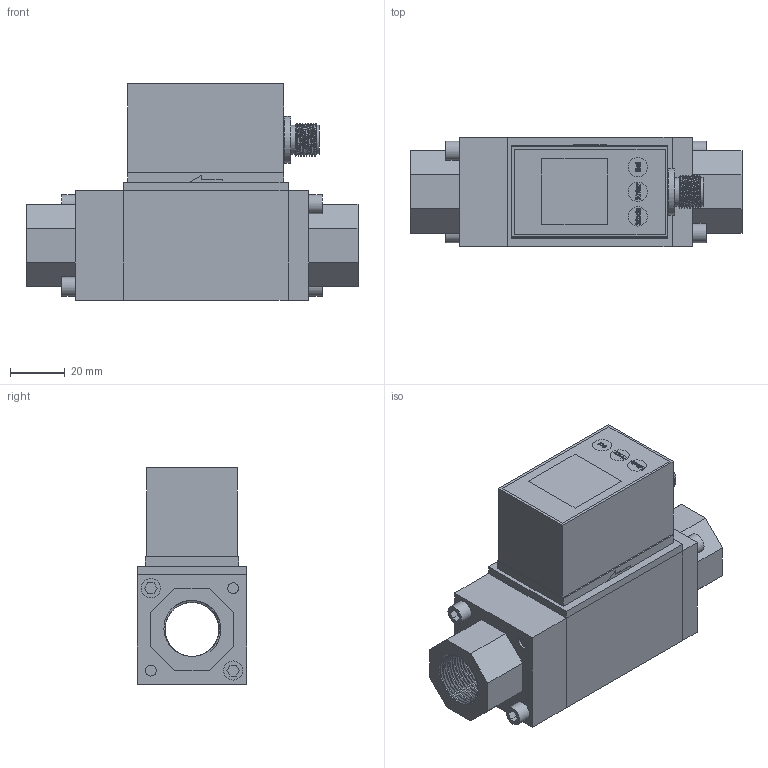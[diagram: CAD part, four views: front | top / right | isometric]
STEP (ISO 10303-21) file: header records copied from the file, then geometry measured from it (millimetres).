
FILE_DESCRIPTION (( 'STEP AP203' ), '1' );
FILE_NAME ('苤講最G12蚾饜极.STEP', '2024-07-12T01:26:02', ( '' ), ( '' ), 'SwSTEP 2.0', 'SolidWorks 2023', '' );
FILE_SCHEMA (( 'CONFIG_CONTROL_DESIGN' ));
Length unit declared in the file: millimetre
Products named in the file (9): G12进水口; 08-固定螺栓; G12出水口; 04-M12针套（5针）; 03-M12盘装插座; 小量程G12装配体; 01-基座; G12主体; 02-显示模块
Assembly tree (11 placements, depth 2):
  小量程G12装配体
    01-基座
    02-显示模块
    03-M12盘装插座
    04-M12针套（5针）
    G12进水口
    G12主体
    G12出水口
    08-固定螺栓  x4
Bounding box: 121 x 40 x 78.91 mm (x, y, z)
Volume: 201414.2 mm3; surface area: 61133 mm2
Topology: 11 solids, 11 shells, 395 faces, 990 edges, 661 vertices
Faces by surface type: plane 232, bspline 90, cylinder 65, torus 8
Full cylindrical faces by diameter (mm): 1 x5, 4 x16, 7 x7, 9 x1, 9.5 x2, 10.5 x2, 12 x2, 17 x1, 19.7 x25
Entity records: 19944 total; most frequent: CARTESIAN_POINT 11584, ORIENTED_EDGE 1594, DIRECTION 1192, EDGE_CURVE 797, VERTEX_POINT 556, LINE 520, VECTOR 520, EDGE_LOOP 445
